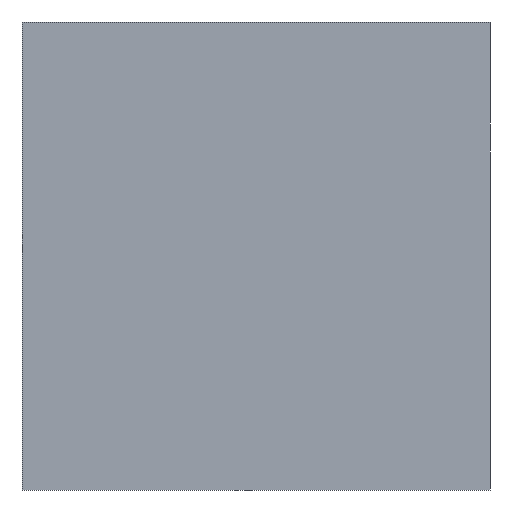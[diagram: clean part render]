
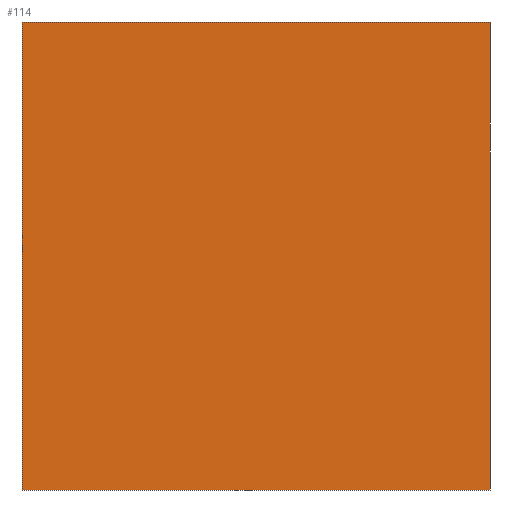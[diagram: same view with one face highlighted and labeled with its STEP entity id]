
A CAD part, front view. The second image highlights one B-rep face of the part: STEP entity #114.
In plain terms, the highlighted planar face has unit normal (0, -1, 0).
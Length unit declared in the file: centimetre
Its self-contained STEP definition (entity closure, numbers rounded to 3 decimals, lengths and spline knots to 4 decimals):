
#10 = DIRECTION ( 'NONE',  ( 0., 0., -1. ) ) ;
#19 = DIRECTION ( 'NONE',  ( 1., 0., 0. ) ) ;
#29 = PLANE ( 'NONE',  #172 ) ;
#47 = VECTOR ( 'NONE', #10, 100. ) ;
#76 = LINE ( 'NONE', #324, #127 ) ;
#77 = CARTESIAN_POINT ( 'NONE',  ( 1000., 0., 0. ) ) ;
#106 = DIRECTION ( 'NONE',  ( 1., 0., 0. ) ) ;
#114 = ADVANCED_FACE ( 'NONE', ( #298 ), #29, .F. ) ;
#125 = EDGE_LOOP ( 'NONE', ( #378, #188, #336, #241 ) ) ;
#127 = VECTOR ( 'NONE', #19, 100. ) ;
#160 = VECTOR ( 'NONE', #290, 100. ) ;
#163 = CARTESIAN_POINT ( 'NONE',  ( 0., 0., 1000. ) ) ;
#172 = AXIS2_PLACEMENT_3D ( 'NONE', #364, #326, #395 ) ;
#188 = ORIENTED_EDGE ( 'NONE', *, *, #335, .F. ) ;
#196 = LINE ( 'NONE', #163, #47 ) ;
#202 = LINE ( 'NONE', #365, #160 ) ;
#227 = EDGE_CURVE ( 'NONE', #276, #311, #76, .T. ) ;
#241 = ORIENTED_EDGE ( 'NONE', *, *, #281, .T. ) ;
#244 = VECTOR ( 'NONE', #106, 100. ) ;
#249 = CARTESIAN_POINT ( 'NONE',  ( 0., 0., 1000. ) ) ;
#255 = CARTESIAN_POINT ( 'NONE',  ( 0., 0., 0. ) ) ;
#276 = VERTEX_POINT ( 'NONE', #249 ) ;
#281 = EDGE_CURVE ( 'NONE', #276, #312, #196, .T. ) ;
#290 = DIRECTION ( 'NONE',  ( 0., 0., -1. ) ) ;
#298 = FACE_OUTER_BOUND ( 'NONE', #125, .T. ) ;
#311 = VERTEX_POINT ( 'NONE', #357 ) ;
#312 = VERTEX_POINT ( 'NONE', #325 ) ;
#316 = VERTEX_POINT ( 'NONE', #77 ) ;
#324 = CARTESIAN_POINT ( 'NONE',  ( 0., 0., 1000. ) ) ;
#325 = CARTESIAN_POINT ( 'NONE',  ( 0., 0., 0. ) ) ;
#326 = DIRECTION ( 'NONE',  ( 0., 1., 0. ) ) ;
#335 = EDGE_CURVE ( 'NONE', #311, #316, #202, .T. ) ;
#336 = ORIENTED_EDGE ( 'NONE', *, *, #227, .F. ) ;
#357 = CARTESIAN_POINT ( 'NONE',  ( 1000., 0., 1000. ) ) ;
#364 = CARTESIAN_POINT ( 'NONE',  ( 0., 0., 1000. ) ) ;
#365 = CARTESIAN_POINT ( 'NONE',  ( 1000., 0., 1000. ) ) ;
#378 = ORIENTED_EDGE ( 'NONE', *, *, #400, .T. ) ;
#395 = DIRECTION ( 'NONE',  ( 0., 0., 1. ) ) ;
#399 = LINE ( 'NONE', #255, #244 ) ;
#400 = EDGE_CURVE ( 'NONE', #312, #316, #399, .T. ) ;
